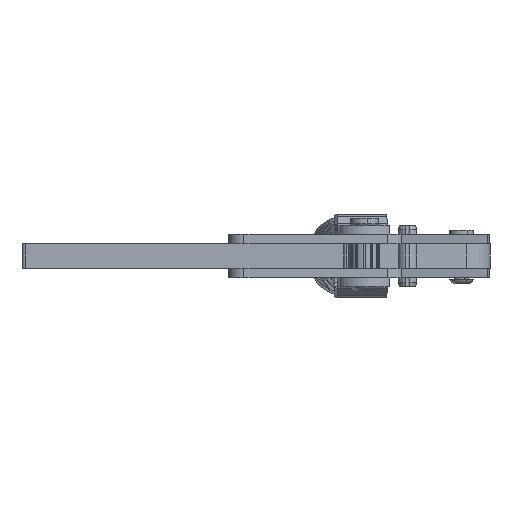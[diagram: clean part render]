
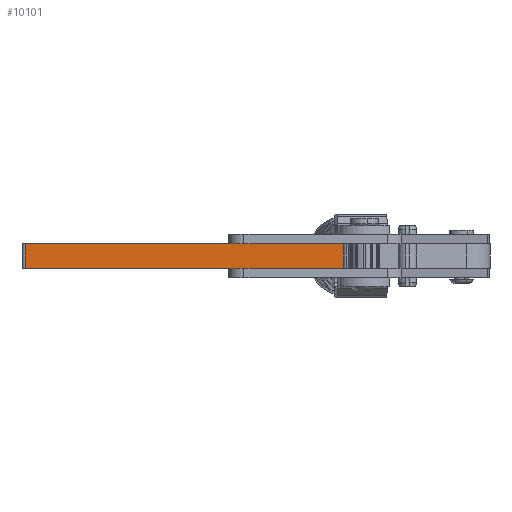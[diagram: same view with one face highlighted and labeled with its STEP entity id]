
A CAD part, front view. The second image highlights one B-rep face of the part: STEP entity #10101.
In plain terms, the highlighted planar face has unit normal (0, -1, 0).
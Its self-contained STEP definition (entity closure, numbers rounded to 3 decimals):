
#43 = LINE ( 'NONE', #3344, #11722 ) ;
#189 = CARTESIAN_POINT ( 'NONE',  ( 91.357, -29.523, 8. ) ) ;
#1328 = DIRECTION ( 'NONE',  ( 0., 0., -1. ) ) ;
#1629 = VECTOR ( 'NONE', #6480, 1000. ) ;
#2639 = CARTESIAN_POINT ( 'NONE',  ( -11.816, -29.523, 8. ) ) ;
#2824 = VERTEX_POINT ( 'NONE', #5966 ) ;
#3344 = CARTESIAN_POINT ( 'NONE',  ( -11.816, -29.523, 8. ) ) ;
#3984 = FACE_OUTER_BOUND ( 'NONE', #18507, .T. ) ;
#4037 = CARTESIAN_POINT ( 'NONE',  ( 91.357, -29.523, 0. ) ) ;
#4419 = EDGE_CURVE ( 'NONE', #16477, #4877, #19198, .T. ) ;
#4656 = CARTESIAN_POINT ( 'NONE',  ( -11.816, -29.523, 0. ) ) ;
#4877 = VERTEX_POINT ( 'NONE', #4037 ) ;
#5321 = CARTESIAN_POINT ( 'NONE',  ( -11.816, -29.523, 0. ) ) ;
#5476 = ORIENTED_EDGE ( 'NONE', *, *, #13729, .T. ) ;
#5495 = VERTEX_POINT ( 'NONE', #9759 ) ;
#5966 = CARTESIAN_POINT ( 'NONE',  ( -11.816, -29.523, 8. ) ) ;
#6480 = DIRECTION ( 'NONE',  ( 0., 0., -1. ) ) ;
#6859 = DIRECTION ( 'NONE',  ( 1., 0., 0. ) ) ;
#7604 = LINE ( 'NONE', #15423, #16694 ) ;
#8153 = VECTOR ( 'NONE', #6859, 1000. ) ;
#8913 = DIRECTION ( 'NONE',  ( 1., 0., 0. ) ) ;
#8939 = AXIS2_PLACEMENT_3D ( 'NONE', #2639, #19800, #8913 ) ;
#9759 = CARTESIAN_POINT ( 'NONE',  ( 91.357, -29.523, 8. ) ) ;
#10101 = ADVANCED_FACE ( 'NONE', ( #3984 ), #19596, .F. ) ;
#11062 = ORIENTED_EDGE ( 'NONE', *, *, #12972, .F. ) ;
#11722 = VECTOR ( 'NONE', #15995, 1000. ) ;
#12396 = ORIENTED_EDGE ( 'NONE', *, *, #15098, .F. ) ;
#12972 = EDGE_CURVE ( 'NONE', #2824, #5495, #43, .T. ) ;
#13729 = EDGE_CURVE ( 'NONE', #2824, #16477, #7604, .T. ) ;
#14299 = LINE ( 'NONE', #189, #1629 ) ;
#15098 = EDGE_CURVE ( 'NONE', #5495, #4877, #14299, .T. ) ;
#15423 = CARTESIAN_POINT ( 'NONE',  ( -11.816, -29.523, 8. ) ) ;
#15995 = DIRECTION ( 'NONE',  ( 1., 0., 0. ) ) ;
#16477 = VERTEX_POINT ( 'NONE', #4656 ) ;
#16694 = VECTOR ( 'NONE', #1328, 1000. ) ;
#18332 = ORIENTED_EDGE ( 'NONE', *, *, #4419, .T. ) ;
#18507 = EDGE_LOOP ( 'NONE', ( #18332, #12396, #11062, #5476 ) ) ;
#19198 = LINE ( 'NONE', #5321, #8153 ) ;
#19596 = PLANE ( 'NONE',  #8939 ) ;
#19800 = DIRECTION ( 'NONE',  ( 0., 1., 0. ) ) ;
